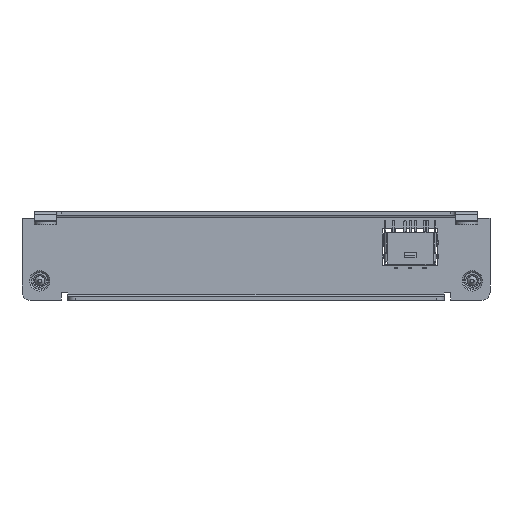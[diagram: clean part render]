
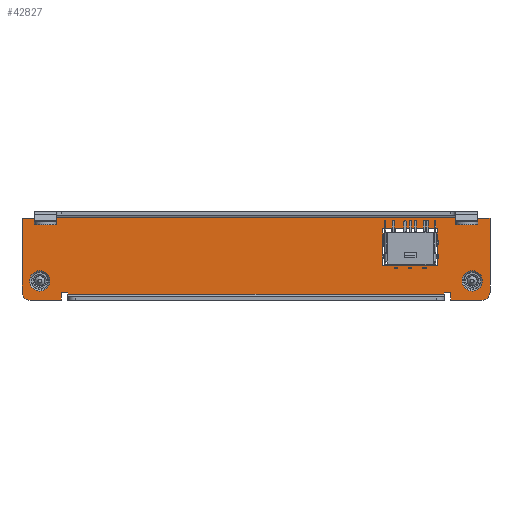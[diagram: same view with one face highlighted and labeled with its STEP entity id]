
A CAD part, front view. The second image highlights one B-rep face of the part: STEP entity #42827.
In plain terms, the highlighted planar face has unit normal (0, -1, 0).
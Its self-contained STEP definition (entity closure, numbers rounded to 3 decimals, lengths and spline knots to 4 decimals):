
#4952=FACE_BOUND('',#8536,.T.);
#4953=FACE_BOUND('',#8537,.T.);
#4954=FACE_BOUND('',#8538,.T.);
#5089=CIRCLE('',#44582,0.09);
#5094=CIRCLE('',#44594,0.09);
#5095=CIRCLE('',#44597,0.114);
#5096=CIRCLE('',#44598,0.114);
#6970=FACE_OUTER_BOUND('',#8535,.T.);
#8535=EDGE_LOOP('',(#33976,#33977,#33978,#33979,#33980,#33981,#33982,#33983,
#33984,#33985,#33986,#33987,#33988,#33989,#33990,#33991,#33992,#33993));
#8536=EDGE_LOOP('',(#33994));
#8537=EDGE_LOOP('',(#33995));
#8538=EDGE_LOOP('',(#33996,#33997,#33998,#33999));
#10167=LINE('',#59572,#14915);
#10173=LINE('',#59585,#14921);
#10177=LINE('',#59592,#14925);
#10186=LINE('',#59621,#14934);
#10187=LINE('',#59625,#14935);
#10218=LINE('',#59709,#14966);
#10242=LINE('',#59793,#14990);
#10256=LINE('',#59833,#15004);
#10258=LINE('',#59837,#15006);
#10259=LINE('',#59839,#15007);
#10260=LINE('',#59841,#15008);
#10261=LINE('',#59843,#15009);
#10262=LINE('',#59845,#15010);
#10263=LINE('',#59847,#15011);
#10264=LINE('',#59848,#15012);
#10265=LINE('',#59849,#15013);
#10266=LINE('',#59856,#15014);
#10267=LINE('',#59858,#15015);
#10268=LINE('',#59860,#15016);
#10269=LINE('',#59861,#15017);
#14915=VECTOR('',#47962,0.3937);
#14921=VECTOR('',#47970,0.3937);
#14925=VECTOR('',#47976,0.3937);
#14934=VECTOR('',#47997,0.3937);
#14935=VECTOR('',#48002,0.3937);
#14966=VECTOR('',#48065,0.3937);
#14990=VECTOR('',#48153,0.3937);
#15004=VECTOR('',#48191,0.3937);
#15006=VECTOR('',#48195,0.3937);
#15007=VECTOR('',#48196,0.3937);
#15008=VECTOR('',#48197,0.3937);
#15009=VECTOR('',#48198,0.3937);
#15010=VECTOR('',#48199,0.3937);
#15011=VECTOR('',#48200,0.3937);
#15012=VECTOR('',#48201,0.3937);
#15013=VECTOR('',#48202,0.3937);
#15014=VECTOR('',#48207,0.3937);
#15015=VECTOR('',#48208,0.3937);
#15016=VECTOR('',#48209,0.3937);
#15017=VECTOR('',#48210,0.3937);
#19663=VERTEX_POINT('',#59570);
#19664=VERTEX_POINT('',#59571);
#19669=VERTEX_POINT('',#59582);
#19670=VERTEX_POINT('',#59584);
#19672=VERTEX_POINT('',#59590);
#19686=VERTEX_POINT('',#59620);
#19687=VERTEX_POINT('',#59624);
#19724=VERTEX_POINT('',#59707);
#19751=VERTEX_POINT('',#59787);
#19752=VERTEX_POINT('',#59791);
#19765=VERTEX_POINT('',#59828);
#19766=VERTEX_POINT('',#59832);
#19767=VERTEX_POINT('',#59836);
#19768=VERTEX_POINT('',#59838);
#19769=VERTEX_POINT('',#59840);
#19770=VERTEX_POINT('',#59842);
#19771=VERTEX_POINT('',#59844);
#19772=VERTEX_POINT('',#59846);
#19773=VERTEX_POINT('',#59850);
#19774=VERTEX_POINT('',#59852);
#19775=VERTEX_POINT('',#59854);
#19776=VERTEX_POINT('',#59855);
#19777=VERTEX_POINT('',#59857);
#19778=VERTEX_POINT('',#59859);
#26570=EDGE_CURVE('',#19663,#19664,#10167,.T.);
#26576=EDGE_CURVE('',#19670,#19669,#10173,.T.);
#26580=EDGE_CURVE('',#19664,#19672,#10177,.T.);
#26594=EDGE_CURVE('',#19686,#19663,#10186,.T.);
#26596=EDGE_CURVE('',#19687,#19670,#10187,.T.);
#26639=EDGE_CURVE('',#19669,#19724,#10218,.T.);
#26680=EDGE_CURVE('',#19751,#19672,#5089,.T.);
#26682=EDGE_CURVE('',#19751,#19752,#10242,.T.);
#26699=EDGE_CURVE('',#19687,#19765,#5094,.T.);
#26701=EDGE_CURVE('',#19766,#19765,#10256,.T.);
#26703=EDGE_CURVE('',#19752,#19767,#10258,.T.);
#26704=EDGE_CURVE('',#19767,#19768,#10259,.T.);
#26705=EDGE_CURVE('',#19768,#19769,#10260,.T.);
#26706=EDGE_CURVE('',#19769,#19770,#10261,.T.);
#26707=EDGE_CURVE('',#19770,#19771,#10262,.T.);
#26708=EDGE_CURVE('',#19771,#19772,#10263,.T.);
#26709=EDGE_CURVE('',#19772,#19766,#10264,.T.);
#26710=EDGE_CURVE('',#19724,#19686,#10265,.T.);
#26711=EDGE_CURVE('',#19773,#19773,#5095,.T.);
#26712=EDGE_CURVE('',#19774,#19774,#5096,.T.);
#26713=EDGE_CURVE('',#19775,#19776,#10266,.T.);
#26714=EDGE_CURVE('',#19776,#19777,#10267,.T.);
#26715=EDGE_CURVE('',#19777,#19778,#10268,.T.);
#26716=EDGE_CURVE('',#19778,#19775,#10269,.T.);
#33976=ORIENTED_EDGE('',*,*,#26570,.T.);
#33977=ORIENTED_EDGE('',*,*,#26580,.T.);
#33978=ORIENTED_EDGE('',*,*,#26680,.F.);
#33979=ORIENTED_EDGE('',*,*,#26682,.T.);
#33980=ORIENTED_EDGE('',*,*,#26703,.T.);
#33981=ORIENTED_EDGE('',*,*,#26704,.T.);
#33982=ORIENTED_EDGE('',*,*,#26705,.T.);
#33983=ORIENTED_EDGE('',*,*,#26706,.T.);
#33984=ORIENTED_EDGE('',*,*,#26707,.T.);
#33985=ORIENTED_EDGE('',*,*,#26708,.T.);
#33986=ORIENTED_EDGE('',*,*,#26709,.T.);
#33987=ORIENTED_EDGE('',*,*,#26701,.T.);
#33988=ORIENTED_EDGE('',*,*,#26699,.F.);
#33989=ORIENTED_EDGE('',*,*,#26596,.T.);
#33990=ORIENTED_EDGE('',*,*,#26576,.T.);
#33991=ORIENTED_EDGE('',*,*,#26639,.T.);
#33992=ORIENTED_EDGE('',*,*,#26710,.T.);
#33993=ORIENTED_EDGE('',*,*,#26594,.T.);
#33994=ORIENTED_EDGE('',*,*,#26711,.T.);
#33995=ORIENTED_EDGE('',*,*,#26712,.T.);
#33996=ORIENTED_EDGE('',*,*,#26713,.T.);
#33997=ORIENTED_EDGE('',*,*,#26714,.T.);
#33998=ORIENTED_EDGE('',*,*,#26715,.T.);
#33999=ORIENTED_EDGE('',*,*,#26716,.T.);
#41927=PLANE('',#44596);
#42827=ADVANCED_FACE('',(#6970,#4952,#4953,#4954),#41927,.F.);
#44582=AXIS2_PLACEMENT_3D('',#59789,#48148,#48149);
#44594=AXIS2_PLACEMENT_3D('',#59829,#48186,#48187);
#44596=AXIS2_PLACEMENT_3D('',#59835,#48193,#48194);
#44597=AXIS2_PLACEMENT_3D('',#59851,#48203,#48204);
#44598=AXIS2_PLACEMENT_3D('',#59853,#48205,#48206);
#47962=DIRECTION('',(-1.,0.,0.));
#47970=DIRECTION('',(-1.,0.,0.));
#47976=DIRECTION('',(0.,0.,-1.));
#47997=DIRECTION('',(0.,0.,-1.));
#48002=DIRECTION('',(0.,0.,1.));
#48065=DIRECTION('',(0.,0.,1.));
#48148=DIRECTION('center_axis',(0.,1.,0.));
#48149=DIRECTION('ref_axis',(-0.707,0.,-0.707));
#48153=DIRECTION('',(1.,0.,0.));
#48186=DIRECTION('center_axis',(0.,1.,0.));
#48187=DIRECTION('ref_axis',(0.707,0.,-0.707));
#48191=DIRECTION('',(1.,0.,0.));
#48193=DIRECTION('center_axis',(0.,1.,0.));
#48194=DIRECTION('ref_axis',(0.,0.,1.));
#48195=DIRECTION('',(0.,0.,1.));
#48196=DIRECTION('',(1.,0.,0.));
#48197=DIRECTION('',(0.,0.,-1.));
#48198=DIRECTION('',(1.,0.,0.));
#48199=DIRECTION('',(0.,0.,1.));
#48200=DIRECTION('',(1.,0.,0.));
#48201=DIRECTION('',(0.,0.,-1.));
#48202=DIRECTION('',(-1.,0.,0.));
#48203=DIRECTION('center_axis',(0.,1.,0.));
#48204=DIRECTION('ref_axis',(1.,0.,0.));
#48205=DIRECTION('center_axis',(0.,1.,0.));
#48206=DIRECTION('ref_axis',(1.,0.,0.));
#48207=DIRECTION('',(0.,0.,1.));
#48208=DIRECTION('',(1.,0.,0.));
#48209=DIRECTION('',(0.,0.,-1.));
#48210=DIRECTION('',(-1.,0.,0.));
#59570=CARTESIAN_POINT('',(-2.475,0.,0.4225));
#59571=CARTESIAN_POINT('',(-2.61,0.,0.4225));
#59572=CARTESIAN_POINT('',(-1.2996,0.,0.4225));
#59582=CARTESIAN_POINT('',(2.475,0.,0.4225));
#59584=CARTESIAN_POINT('',(2.61,0.,0.4225));
#59585=CARTESIAN_POINT('',(1.3114,0.,0.4225));
#59590=CARTESIAN_POINT('',(-2.61,0.,-0.4025));
#59592=CARTESIAN_POINT('',(-2.61,0.,0.4925));
#59620=CARTESIAN_POINT('',(-2.475,0.,0.4254));
#59621=CARTESIAN_POINT('',(-2.475,0.,0.2463));
#59624=CARTESIAN_POINT('',(2.61,0.,-0.4025));
#59625=CARTESIAN_POINT('',(2.61,0.,-0.4925));
#59707=CARTESIAN_POINT('',(2.475,0.,0.4254));
#59709=CARTESIAN_POINT('',(2.475,0.,0.2463));
#59787=CARTESIAN_POINT('',(-2.52,0.,-0.4925));
#59789=CARTESIAN_POINT('Origin',(-2.52,0.,-0.4025));
#59791=CARTESIAN_POINT('',(-2.17,0.,-0.4925));
#59793=CARTESIAN_POINT('',(-2.61,0.,-0.4925));
#59828=CARTESIAN_POINT('',(2.52,0.,-0.4925));
#59829=CARTESIAN_POINT('Origin',(2.52,0.,-0.4025));
#59832=CARTESIAN_POINT('',(2.17,0.,-0.4925));
#59833=CARTESIAN_POINT('',(-2.61,0.,-0.4925));
#59835=CARTESIAN_POINT('Origin',(0.,0.,0.));
#59836=CARTESIAN_POINT('',(-2.17,0.,-0.4044));
#59837=CARTESIAN_POINT('',(-2.17,0.,-0.2022));
#59838=CARTESIAN_POINT('',(-2.1,0.,-0.4044));
#59839=CARTESIAN_POINT('',(-1.05,0.,-0.4044));
#59840=CARTESIAN_POINT('',(-2.1,0.,-0.4254));
#59841=CARTESIAN_POINT('',(-2.1,0.,-0.2463));
#59842=CARTESIAN_POINT('',(2.1,0.,-0.4253));
#59843=CARTESIAN_POINT('',(1.05,0.,-0.4254));
#59844=CARTESIAN_POINT('',(2.1,0.,-0.4043));
#59845=CARTESIAN_POINT('',(2.1,0.,-0.2022));
#59846=CARTESIAN_POINT('',(2.17,0.,-0.4043));
#59847=CARTESIAN_POINT('',(1.085,0.,-0.4043));
#59848=CARTESIAN_POINT('',(2.17,0.,-0.2463));
#59849=CARTESIAN_POINT('',(-1.305,0.,0.4254));
#59850=CARTESIAN_POINT('',(-2.526,0.,-0.2775));
#59851=CARTESIAN_POINT('Origin',(-2.412,0.,-0.2775));
#59852=CARTESIAN_POINT('',(2.298,0.,-0.2775));
#59853=CARTESIAN_POINT('Origin',(2.412,0.,-0.2775));
#59854=CARTESIAN_POINT('',(1.4125,0.,-0.1095));
#59855=CARTESIAN_POINT('',(1.4125,0.,0.3025));
#59856=CARTESIAN_POINT('',(1.4125,0.,0.1513));
#59857=CARTESIAN_POINT('',(2.0225,0.,0.3025));
#59858=CARTESIAN_POINT('',(1.0113,0.,0.3025));
#59859=CARTESIAN_POINT('',(2.0225,0.,-0.1095));
#59860=CARTESIAN_POINT('',(2.0225,0.,-0.0548));
#59861=CARTESIAN_POINT('',(0.7062,0.,-0.1095));
